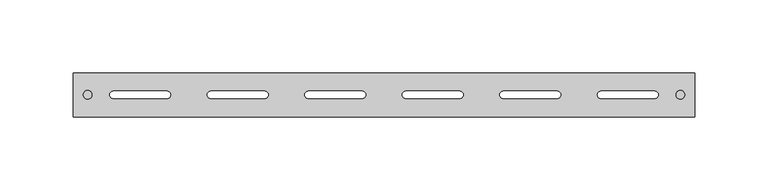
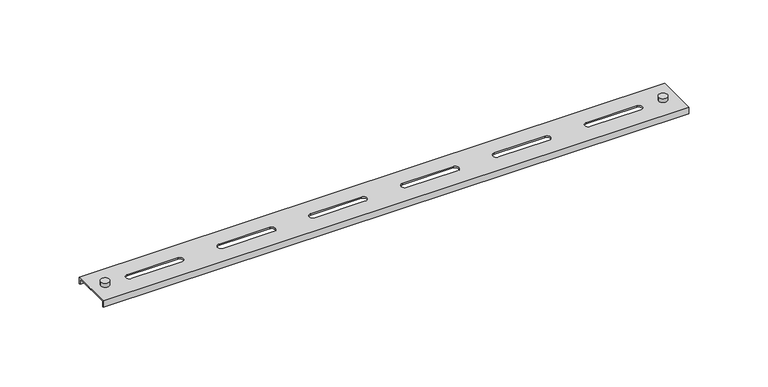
"""IFC4 building model written with IfcOpenShell, lengths in millimetres: cable carrier fitting geometry, CCT_Hyperline_FBTR_BAR_Подвес_для_оптического_лотка : Подвес для оптического лотка."""

from ifc_helpers import new_model, si_unit, point, frame, frame_2d, origin, place, context, project, spatial, polyline, circle_curve, trimmed, segment, composite_curve, outline, extrude, source, transform, mapped, element, save
from ifc_brep_helpers import plane_surface, revolved_surface, advanced_brep


def cable_carrier_fitting_6c73aa63(model_context):
    return source(origin(), model_context, "Body", "SolidModel", [
        extrude(outline(composite_curve([segment(trimmed(circle_curve(frame_2d((-202.6286976, 0.0)), 3.0), [point((-199.6286976, 0.0))], [point((-205.6286976, 0.0))], False, "CARTESIAN"), True, "CONTINUOUS"), segment(trimmed(circle_curve(frame_2d((-202.6286976, 0.0)), 3.0), [point((-205.6286976, 0.0))], [point((-199.6286976, 0.0))], False, "CARTESIAN"), True, "CONTINUOUS")], self_intersect=False)), frame((0.0, 0.0, 100.0), z_axis=(0.0, 0.0, 1.0), x_axis=(1.0, 0.0, 0.0)), (0.0, 0.0, 1.0), 3.0),
        extrude(outline(composite_curve([segment(trimmed(circle_curve(frame_2d((202.6286976, 0.0)), 3.0), [point((199.6286976, 0.0))], [point((205.6286976, 0.0))], False, "CARTESIAN"), True, "CONTINUOUS"), segment(trimmed(circle_curve(frame_2d((202.6286976, 0.0)), 3.0), [point((205.6286976, 0.0))], [point((199.6286976, 0.0))], False, "CARTESIAN"), True, "CONTINUOUS")], self_intersect=False)), frame((0.0, 0.0, 100.0), z_axis=(0.0, 0.0, 1.0), x_axis=(1.0, 0.0, 0.0)), (0.0, 0.0, 1.0), 3.0),
        advanced_brep(
        [(-212.5, -15.0, 100.0), (-212.5, 15.0, 100.0), (-212.5, 15.0, 95.0), (-212.5, 14.0, 95.0), (-212.5, 14.0, 99.0), (-212.5, -14.0, 99.0), (-212.5, -14.0, 95.0), (-212.5, -15.0, 95.0), (212.5, -15.0, 100.0), (212.5, 15.0, 100.0), (-51.6666667, 2.5, 100.0), (-15.0, 2.5, 100.0), (-15.0, -2.5, 100.0), (-51.6666667, -2.5, 100.0), (15.0, 2.5, 100.0), (51.6666667, 2.5, 100.0), (51.6666667, -2.5, 100.0), (15.0, -2.5, 100.0), (81.6666667, 2.5, 100.0), (118.3333333, 2.5, 100.0), (118.3333333, -2.5, 100.0), (81.6666667, -2.5, 100.0), (148.3333333, 2.5, 100.0), (185.0, 2.5, 100.0), (185.0, -2.5, 100.0), (148.3333333, -2.5, 100.0), (-118.3333333, 2.5, 100.0), (-81.6666667, 2.5, 100.0), (-81.6666667, -2.5, 100.0), (-118.3333333, -2.5, 100.0), (-185.0, 2.5, 100.0), (-148.3333333, 2.5, 100.0), (-148.3333333, -2.5, 100.0), (-185.0, -2.5, 100.0), (212.5, 14.0, 99.0), (212.5, -14.0, 99.0), (-15.0, 2.5, 99.0), (-51.6666667, 2.5, 99.0), (-51.6666667, -2.5, 99.0), (-15.0, -2.5, 99.0), (51.6666667, 2.5, 99.0), (15.0, 2.5, 99.0), (15.0, -2.5, 99.0), (51.6666667, -2.5, 99.0), (118.3333333, 2.5, 99.0), (81.6666667, 2.5, 99.0), (81.6666667, -2.5, 99.0), (118.3333333, -2.5, 99.0), (185.0, 2.5, 99.0), (148.3333333, 2.5, 99.0), (148.3333333, -2.5, 99.0), (185.0, -2.5, 99.0), (-81.6666667, 2.5, 99.0), (-118.3333333, 2.5, 99.0), (-118.3333333, -2.5, 99.0), (-81.6666667, -2.5, 99.0), (-148.3333333, 2.5, 99.0), (-185.0, 2.5, 99.0), (-185.0, -2.5, 99.0), (-148.3333333, -2.5, 99.0), (212.5, -14.0, 95.0), (212.5, -15.0, 95.0), (212.5, 14.0, 95.0), (212.5, 15.0, 95.0)],
        [
            (0, 1),
            (1, 2),
            (2, 3),
            (3, 4),
            (4, 5),
            (5, 6),
            (6, 7),
            (7, 0),
            (0, 8),
            (8, 9),
            (9, 1),
            (10, 11),
            (11, 12, circle_curve(frame((-15.0, 0.0, 100.0), z_axis=(0.0, 0.0, -1.0), x_axis=(1.0, 0.0, 0.0)), 2.5)),
            (12, 13),
            (13, 10, circle_curve(frame((-51.6666667, 0.0, 100.0), z_axis=(0.0, 0.0, -1.0), x_axis=(1.0, 0.0, 0.0)), 2.5)),
            (14, 15),
            (15, 16, circle_curve(frame((51.6666667, 0.0, 100.0), z_axis=(0.0, 0.0, -1.0), x_axis=(1.0, 0.0, 0.0)), 2.5)),
            (16, 17),
            (17, 14, circle_curve(frame((15.0, 0.0, 100.0), z_axis=(0.0, 0.0, -1.0), x_axis=(1.0, 0.0, 0.0)), 2.5)),
            (18, 19),
            (19, 20, circle_curve(frame((118.3333333, 0.0, 100.0), z_axis=(0.0, 0.0, -1.0), x_axis=(1.0, 0.0, 0.0)), 2.5)),
            (20, 21),
            (21, 18, circle_curve(frame((81.6666667, 0.0, 100.0), z_axis=(0.0, 0.0, -1.0), x_axis=(1.0, 0.0, 0.0)), 2.5)),
            (22, 23),
            (23, 24, circle_curve(frame((185.0, 0.0, 100.0), z_axis=(0.0, 0.0, -1.0), x_axis=(1.0, 0.0, 0.0)), 2.5)),
            (24, 25),
            (25, 22, circle_curve(frame((148.3333333, 0.0, 100.0), z_axis=(0.0, 0.0, -1.0), x_axis=(1.0, 0.0, 0.0)), 2.5)),
            (26, 27),
            (27, 28, circle_curve(frame((-81.6666667, 0.0, 100.0), z_axis=(0.0, 0.0, -1.0), x_axis=(1.0, 0.0, 0.0)), 2.5)),
            (28, 29),
            (29, 26, circle_curve(frame((-118.3333333, 0.0, 100.0), z_axis=(0.0, 0.0, -1.0), x_axis=(1.0, 0.0, 0.0)), 2.5)),
            (30, 31),
            (31, 32, circle_curve(frame((-148.3333333, 0.0, 100.0), z_axis=(0.0, 0.0, -1.0), x_axis=(1.0, 0.0, 0.0)), 2.5)),
            (32, 33),
            (33, 30, circle_curve(frame((-185.0, 0.0, 100.0), z_axis=(0.0, 0.0, -1.0), x_axis=(1.0, 0.0, 0.0)), 2.5)),
            (4, 34),
            (34, 35),
            (35, 5),
            (36, 37),
            (37, 38, circle_curve(frame((-51.6666667, 0.0, 99.0), z_axis=(0.0, 0.0, 1.0), x_axis=(1.0, 0.0, 0.0)), 2.5)),
            (38, 39),
            (39, 36, circle_curve(frame((-15.0, 0.0, 99.0), z_axis=(0.0, 0.0, 1.0), x_axis=(1.0, 0.0, 0.0)), 2.5)),
            (40, 41),
            (41, 42, circle_curve(frame((15.0, 0.0, 99.0), z_axis=(0.0, 0.0, 1.0), x_axis=(1.0, 0.0, 0.0)), 2.5)),
            (42, 43),
            (43, 40, circle_curve(frame((51.6666667, 0.0, 99.0), z_axis=(0.0, 0.0, 1.0), x_axis=(1.0, 0.0, 0.0)), 2.5)),
            (44, 45),
            (45, 46, circle_curve(frame((81.6666667, 0.0, 99.0), z_axis=(0.0, 0.0, 1.0), x_axis=(1.0, 0.0, 0.0)), 2.5)),
            (46, 47),
            (47, 44, circle_curve(frame((118.3333333, 0.0, 99.0), z_axis=(0.0, 0.0, 1.0), x_axis=(1.0, 0.0, 0.0)), 2.5)),
            (48, 49),
            (49, 50, circle_curve(frame((148.3333333, 0.0, 99.0), z_axis=(0.0, 0.0, 1.0), x_axis=(1.0, 0.0, 0.0)), 2.5)),
            (50, 51),
            (51, 48, circle_curve(frame((185.0, 0.0, 99.0), z_axis=(0.0, 0.0, 1.0), x_axis=(1.0, 0.0, 0.0)), 2.5)),
            (52, 53),
            (53, 54, circle_curve(frame((-118.3333333, 0.0, 99.0), z_axis=(0.0, 0.0, 1.0), x_axis=(1.0, 0.0, 0.0)), 2.5)),
            (54, 55),
            (55, 52, circle_curve(frame((-81.6666667, 0.0, 99.0), z_axis=(0.0, 0.0, 1.0), x_axis=(1.0, 0.0, 0.0)), 2.5)),
            (56, 57),
            (57, 58, circle_curve(frame((-185.0, 0.0, 99.0), z_axis=(0.0, 0.0, 1.0), x_axis=(1.0, 0.0, 0.0)), 2.5)),
            (58, 59),
            (59, 56, circle_curve(frame((-148.3333333, 0.0, 99.0), z_axis=(0.0, 0.0, 1.0), x_axis=(1.0, 0.0, 0.0)), 2.5)),
            (35, 60),
            (60, 6),
            (60, 61),
            (61, 7),
            (61, 8),
            (34, 62),
            (62, 63),
            (63, 9),
            (63, 2),
            (62, 3),
            (10, 37),
            (36, 11),
            (13, 38),
            (12, 39),
            (14, 41),
            (40, 15),
            (17, 42),
            (16, 43),
            (18, 45),
            (44, 19),
            (21, 46),
            (20, 47),
            (22, 49),
            (48, 23),
            (25, 50),
            (24, 51),
            (26, 53),
            (52, 27),
            (29, 54),
            (28, 55),
            (30, 57),
            (56, 31),
            (33, 58),
            (32, 59),
        ],
        [
            plane_surface(frame((-212.5, -60.0, 24.0), z_axis=(-1.0, 0.0, 0.0), x_axis=(0.0, 0.0, 1.0))),
            plane_surface(frame((-212.5, -15.0, 100.0), z_axis=(0.0, 0.0, 1.0), x_axis=(1.0, 0.0, 0.0))),
            plane_surface(frame((-212.5, 14.0, 99.0), z_axis=(0.0, 0.0, -1.0), x_axis=(1.0, 0.0, 0.0))),
            plane_surface(frame((-212.5, -14.0, 99.0), z_axis=(0.0, 1.0, 0.0), x_axis=(1.0, 0.0, 0.0))),
            plane_surface(frame((-212.5, -14.0, 95.0), z_axis=(0.0, 0.0, -1.0), x_axis=(1.0, 0.0, 0.0))),
            plane_surface(frame((-212.5, -15.0, 95.0), z_axis=(0.0, -1.0, 0.0), x_axis=(1.0, 0.0, 0.0))),
            plane_surface(frame((212.5, -60.0, 24.0), z_axis=(1.0, 0.0, 0.0), x_axis=(0.0, 0.0, 1.0))),
            plane_surface(frame((-212.5, 15.0, 100.0), z_axis=(0.0, 1.0, 0.0), x_axis=(1.0, 0.0, 0.0))),
            plane_surface(frame((-212.5, 15.0, 95.0), z_axis=(0.0, 0.0, -1.0), x_axis=(1.0, 0.0, 0.0))),
            plane_surface(frame((-212.5, 14.0, 95.0), z_axis=(0.0, -1.0, 0.0), x_axis=(1.0, 0.0, 0.0))),
            plane_surface(frame((-15.0, 2.5, 100.0), z_axis=(0.0, -1.0, 0.0), x_axis=(0.0, 0.0, -1.0))),
            revolved_surface(polyline([(-49.1666667, 0.0, 100.0), (-49.1666667, 0.0, 99.0)]), (-51.6666667, 0.0, 99.0), (0.0, 0.0, 1.0)),
            plane_surface(frame((-51.6666667, -2.5, 100.0), z_axis=(0.0, 1.0, 0.0), x_axis=(0.0, 0.0, -1.0))),
            revolved_surface(polyline([(-12.5, 0.0, 100.0), (-12.5, 0.0, 99.0)]), (-15.0, 0.0, 99.0), (0.0, 0.0, 1.0)),
            plane_surface(frame((51.6666667, 2.5, 100.0), z_axis=(0.0, -1.0, 0.0), x_axis=(0.0, 0.0, -1.0))),
            revolved_surface(polyline([(17.5, 0.0, 100.0), (17.5, 0.0, 99.0)]), (15.0, 0.0, 99.0), (0.0, 0.0, 1.0)),
            plane_surface(frame((15.0, -2.5, 100.0), z_axis=(0.0, 1.0, 0.0), x_axis=(0.0, 0.0, -1.0))),
            revolved_surface(polyline([(54.1666667, 0.0, 100.0), (54.1666667, 0.0, 99.0)]), (51.6666667, 0.0, 99.0), (0.0, 0.0, 1.0)),
            plane_surface(frame((118.3333333, 2.5, 100.0), z_axis=(0.0, -1.0, 0.0), x_axis=(0.0, 0.0, -1.0))),
            revolved_surface(polyline([(84.1666667, 0.0, 100.0), (84.1666667, 0.0, 99.0)]), (81.6666667, 0.0, 99.0), (0.0, 0.0, 1.0)),
            plane_surface(frame((81.6666667, -2.5, 100.0), z_axis=(0.0, 1.0, 0.0), x_axis=(0.0, 0.0, -1.0))),
            revolved_surface(polyline([(120.8333333, 0.0, 100.0), (120.8333333, 0.0, 99.0)]), (118.3333333, 0.0, 99.0), (0.0, 0.0, 1.0)),
            plane_surface(frame((185.0, 2.5, 100.0), z_axis=(0.0, -1.0, 0.0), x_axis=(0.0, 0.0, -1.0))),
            revolved_surface(polyline([(150.8333333, 0.0, 100.0), (150.8333333, 0.0, 99.0)]), (148.3333333, 0.0, 99.0), (0.0, 0.0, 1.0)),
            plane_surface(frame((148.3333333, -2.5, 100.0), z_axis=(0.0, 1.0, 0.0), x_axis=(0.0, 0.0, -1.0))),
            revolved_surface(polyline([(187.5, 0.0, 100.0), (187.5, 0.0, 99.0)]), (185.0, 0.0, 99.0), (0.0, 0.0, 1.0)),
            plane_surface(frame((-81.6666667, 2.5, 100.0), z_axis=(0.0, -1.0, 0.0), x_axis=(0.0, 0.0, -1.0))),
            revolved_surface(polyline([(-115.8333333, 0.0, 100.0), (-115.8333333, 0.0, 99.0)]), (-118.3333333, 0.0, 99.0), (0.0, 0.0, 1.0)),
            plane_surface(frame((-118.3333333, -2.5, 100.0), z_axis=(0.0, 1.0, 0.0), x_axis=(0.0, 0.0, -1.0))),
            revolved_surface(polyline([(-79.1666667, 0.0, 100.0), (-79.1666667, 0.0, 99.0)]), (-81.6666667, 0.0, 99.0), (0.0, 0.0, 1.0)),
            plane_surface(frame((-148.3333333, 2.5, 100.0), z_axis=(0.0, -1.0, 0.0), x_axis=(0.0, 0.0, -1.0))),
            revolved_surface(polyline([(-182.5, 0.0, 100.0), (-182.5, 0.0, 99.0)]), (-185.0, 0.0, 99.0), (0.0, 0.0, 1.0)),
            plane_surface(frame((-185.0, -2.5, 100.0), z_axis=(0.0, 1.0, 0.0), x_axis=(0.0, 0.0, -1.0))),
            revolved_surface(polyline([(-145.8333333, 0.0, 100.0), (-145.8333333, 0.0, 99.0)]), (-148.3333333, 0.0, 99.0), (0.0, 0.0, 1.0)),
        ],
        [
            (0, [[1, 2, 3, 4, 5, 6, 7, 8]]),
            (1, [[-1, 9, 10, 11], [12, 13, 14, 15], [16, 17, 18, 19], [20, 21, 22, 23], [24, 25, 26, 27], [28, 29, 30, 31], [32, 33, 34, 35]]),
            (2, [[-5, 36, 37, 38], [39, 40, 41, 42], [43, 44, 45, 46], [47, 48, 49, 50], [51, 52, 53, 54], [55, 56, 57, 58], [59, 60, 61, 62]]),
            (3, [[-6, -38, 63, 64]]),
            (4, [[-7, -64, 65, 66]]),
            (5, [[-8, -66, 67, -9]]),
            (6, [[-10, -67, -65, -63, -37, 68, 69, 70]]),
            (7, [[-2, -11, -70, 71]]),
            (8, [[-3, -71, -69, 72]]),
            (9, [[-4, -72, -68, -36]]),
            (10, [[73, -39, 74, -12]]),
            (11, [[-73, -15, 75, -40]]),
            (12, [[-75, -14, 76, -41]]),
            (13, [[-74, -42, -76, -13]]),
            (14, [[77, -43, 78, -16]]),
            (15, [[-77, -19, 79, -44]]),
            (16, [[-79, -18, 80, -45]]),
            (17, [[-78, -46, -80, -17]]),
            (18, [[81, -47, 82, -20]]),
            (19, [[-81, -23, 83, -48]]),
            (20, [[-83, -22, 84, -49]]),
            (21, [[-82, -50, -84, -21]]),
            (22, [[85, -51, 86, -24]]),
            (23, [[-85, -27, 87, -52]]),
            (24, [[-87, -26, 88, -53]]),
            (25, [[-86, -54, -88, -25]]),
            (26, [[89, -55, 90, -28]]),
            (27, [[-89, -31, 91, -56]]),
            (28, [[-91, -30, 92, -57]]),
            (29, [[-90, -58, -92, -29]]),
            (30, [[93, -59, 94, -32]]),
            (31, [[-93, -35, 95, -60]]),
            (32, [[-95, -34, 96, -61]]),
            (33, [[-94, -62, -96, -33]]),
        ],
    ),
    ])


if __name__ == "__main__":
    model = new_model("IFC4")
    model_context = context("Model", 3, world=origin())
    ifc_project = project(units=[si_unit("LENGTHUNIT", "METRE", prefix="MILLI")], contexts=[model_context])
    site = spatial("IfcSite", under=ifc_project)
    building = spatial("IfcBuilding", under=site)
    placement = place(None, origin())
    cable_carrier_fitting_shape = cable_carrier_fitting_6c73aa63(model_context)
    element("IfcCableCarrierFitting", 1, ObjectType="CCT_Hyperline_FBTR_BAR_Подвес_для_оптического_лотка : Подвес для оптического лотка", at=placement, inside=building, context=model_context, shape_type="MappedRepresentation", body=[
        mapped(cable_carrier_fitting_shape, transform((0.0, 0.0, 0.0), x_axis=(1.0, 0.0, 0.0), y_axis=(0.0, 1.0, 0.0), z_axis=(0.0, 0.0, 1.0))),
    ])
    save(model, "model.ifc")
